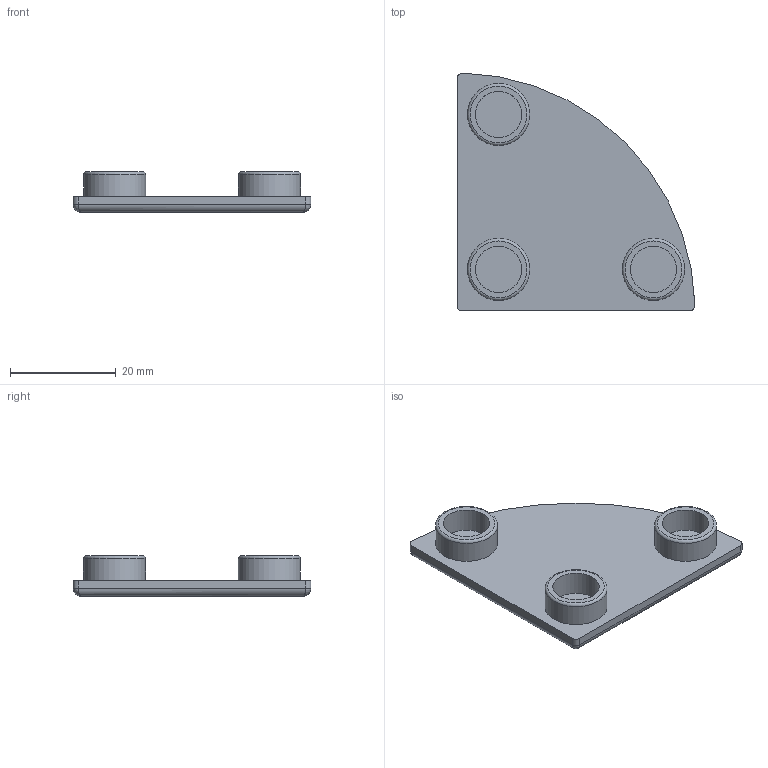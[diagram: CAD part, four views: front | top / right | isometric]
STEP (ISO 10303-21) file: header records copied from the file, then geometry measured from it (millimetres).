
FILE_DESCRIPTION((''),'2;1');
FILE_NAME('C:\Documents and Settings\Administrator\My Documents\Andys Backup Data\ANDY''S INVENTOR\INVENTOR LIBRARIES\MINITEC INVENTOR LIBRARIES\END CAPS\22.1034_1 END CAP 45 R 90 DEG GRAY.stp','2010-07-19T14:32:42',('Administrator'),(''),'Autodesk Inventor 2009','Autodesk Inventor 2009','');
FILE_SCHEMA(('AUTOMOTIVE_DESIGN { 1 0 10303 214 1 1 1 1 }'));
Length unit declared in the file: millimetre
Products named in the file (1): 22.1034_1 END CAP 45 R 90 DEG GRAY
Bounding box: 44.99 x 44.99 x 7.65 mm (x, y, z)
Volume: 5361.3 mm3; surface area: 4428.2 mm2
Topology: 1 solids, 1 shells, 29 faces, 54 edges, 30 vertices
Faces by surface type: cylinder 12, plane 10, torus 4, bspline 3
Full cylindrical faces by diameter (mm): 8.75 x3, 11.75 x3
Entity records: 916 total; most frequent: CARTESIAN_POINT 359, DIRECTION 118, ORIENTED_EDGE 84, AXIS2_PLACEMENT_3D 53, EDGE_LOOP 44, EDGE_CURVE 42, VERTEX_POINT 30, FACE_OUTER_BOUND 29
